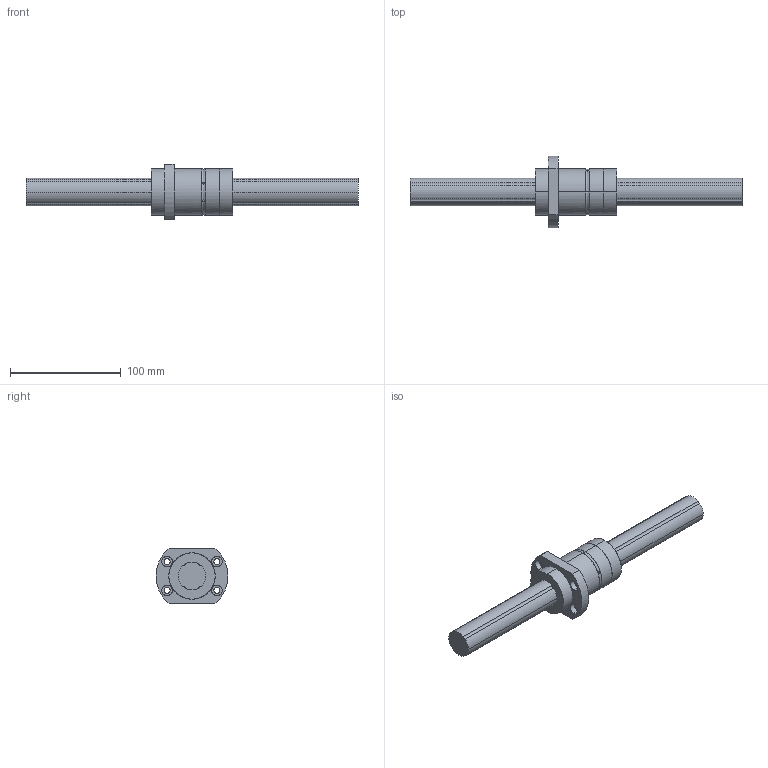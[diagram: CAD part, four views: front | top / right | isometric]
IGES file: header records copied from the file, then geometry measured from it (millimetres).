
Global section: file name: No Iges File Name specified; native system: AutoDesk Inventor R11.0; preprocessor: AutoDesk Inventor Iges Exporter R11.0; author: No Author specified; organization: No Organization specified; date: 20150223.133715; units: millimetre
Bounding box: 300 x 65 x 50 mm (x, y, z)
Surface area: 46978.2 mm2 (no closed solid volume)
Topology: 0 solids, 0 shells, 71 faces, 490 edges, 490 vertices
Faces by surface type: bspline 71
